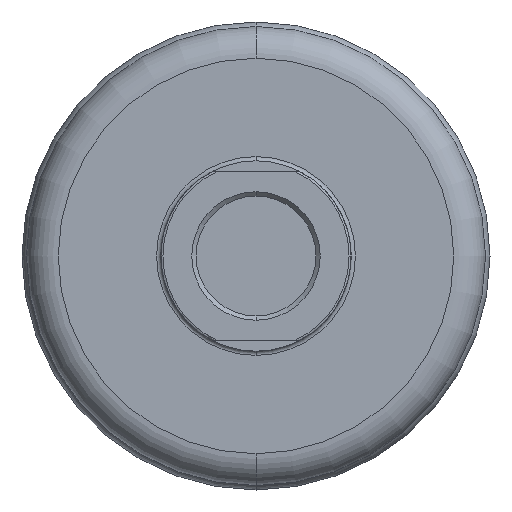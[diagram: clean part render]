
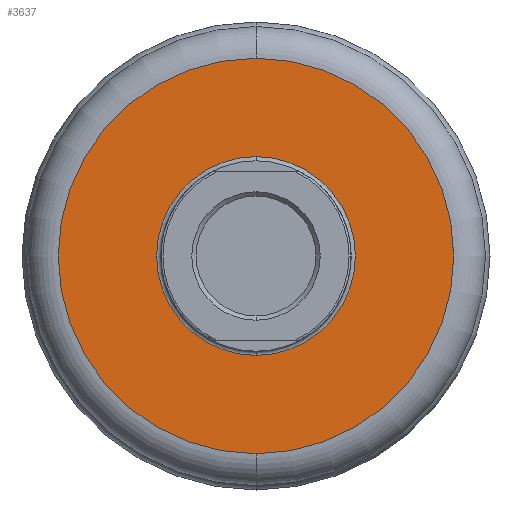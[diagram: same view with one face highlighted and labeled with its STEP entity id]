
A CAD part, front view. The second image highlights one B-rep face of the part: STEP entity #3637.
In plain terms, the highlighted planar face has unit normal (0, -1, 0).
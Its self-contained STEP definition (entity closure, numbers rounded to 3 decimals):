
#15 = EDGE_CURVE ( 'NONE', #5200, #2728, #517, .T. ) ;
#93 = DIRECTION ( 'NONE',  ( 0., 0., 1. ) ) ;
#370 = CARTESIAN_POINT ( 'NONE',  ( 0., 20., 0. ) ) ;
#374 = DIRECTION ( 'NONE',  ( 0., 1., 0. ) ) ;
#517 = CIRCLE ( 'NONE', #3145, 47. ) ;
#627 = CARTESIAN_POINT ( 'NONE',  ( 0., 20., 0. ) ) ;
#649 = ORIENTED_EDGE ( 'NONE', *, *, #2120, .T. ) ;
#1016 = FACE_OUTER_BOUND ( 'NONE', #2560, .T. ) ;
#1537 = ORIENTED_EDGE ( 'NONE', *, *, #3696, .F. ) ;
#1667 = CARTESIAN_POINT ( 'NONE',  ( 0., 20., 0. ) ) ;
#1929 = DIRECTION ( 'NONE',  ( 0., 0., 1. ) ) ;
#2072 = DIRECTION ( 'NONE',  ( 0., -1., 0. ) ) ;
#2120 = EDGE_CURVE ( 'NONE', #2728, #5200, #6911, .T. ) ;
#2290 = AXIS2_PLACEMENT_3D ( 'NONE', #627, #5054, #93 ) ;
#2553 = CARTESIAN_POINT ( 'NONE',  ( 0., 20., -47. ) ) ;
#2560 = EDGE_LOOP ( 'NONE', ( #6262, #1537 ) ) ;
#2728 = VERTEX_POINT ( 'NONE', #6495 ) ;
#2739 = EDGE_LOOP ( 'NONE', ( #649, #4302 ) ) ;
#3106 = DIRECTION ( 'NONE',  ( 0., 1., 0. ) ) ;
#3145 = AXIS2_PLACEMENT_3D ( 'NONE', #370, #3106, #1929 ) ;
#3189 = DIRECTION ( 'NONE',  ( 0., 0., 1. ) ) ;
#3287 = CARTESIAN_POINT ( 'NONE',  ( -47., 20., 0. ) ) ;
#3341 = AXIS2_PLACEMENT_3D ( 'NONE', #1667, #6641, #3189 ) ;
#3491 = CARTESIAN_POINT ( 'NONE',  ( 0., 20., -93.5 ) ) ;
#3637 = ADVANCED_FACE ( 'NONE', ( #6125, #1016 ), #4988, .T. ) ;
#3696 = EDGE_CURVE ( 'NONE', #7271, #4156, #6469, .T. ) ;
#3727 = AXIS2_PLACEMENT_3D ( 'NONE', #3287, #2072, #5561 ) ;
#3801 = DIRECTION ( 'NONE',  ( 0., 0., 1. ) ) ;
#4156 = VERTEX_POINT ( 'NONE', #5237 ) ;
#4302 = ORIENTED_EDGE ( 'NONE', *, *, #15, .T. ) ;
#4903 = AXIS2_PLACEMENT_3D ( 'NONE', #5135, #374, #3801 ) ;
#4988 = PLANE ( 'NONE',  #3727 ) ;
#5054 = DIRECTION ( 'NONE',  ( 0., 1., 0. ) ) ;
#5135 = CARTESIAN_POINT ( 'NONE',  ( 0., 20., 0. ) ) ;
#5200 = VERTEX_POINT ( 'NONE', #2553 ) ;
#5237 = CARTESIAN_POINT ( 'NONE',  ( 0., 20., 93.5 ) ) ;
#5490 = CIRCLE ( 'NONE', #2290, 93.5 ) ;
#5561 = DIRECTION ( 'NONE',  ( 0., 0., -1. ) ) ;
#6125 = FACE_BOUND ( 'NONE', #2739, .T. ) ;
#6262 = ORIENTED_EDGE ( 'NONE', *, *, #7079, .F. ) ;
#6469 = CIRCLE ( 'NONE', #4903, 93.5 ) ;
#6495 = CARTESIAN_POINT ( 'NONE',  ( 0., 20., 47. ) ) ;
#6641 = DIRECTION ( 'NONE',  ( 0., 1., 0. ) ) ;
#6911 = CIRCLE ( 'NONE', #3341, 47. ) ;
#7079 = EDGE_CURVE ( 'NONE', #4156, #7271, #5490, .T. ) ;
#7271 = VERTEX_POINT ( 'NONE', #3491 ) ;
